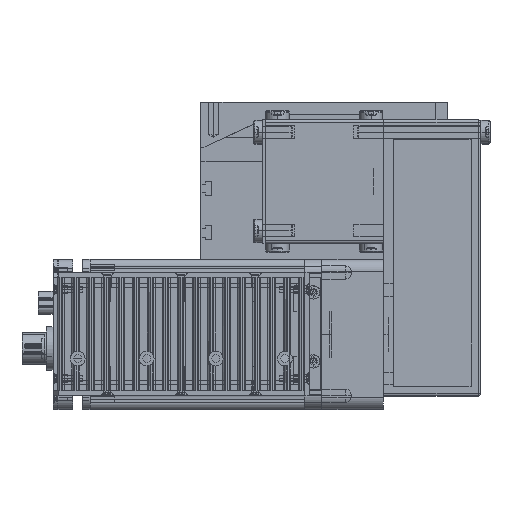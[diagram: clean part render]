
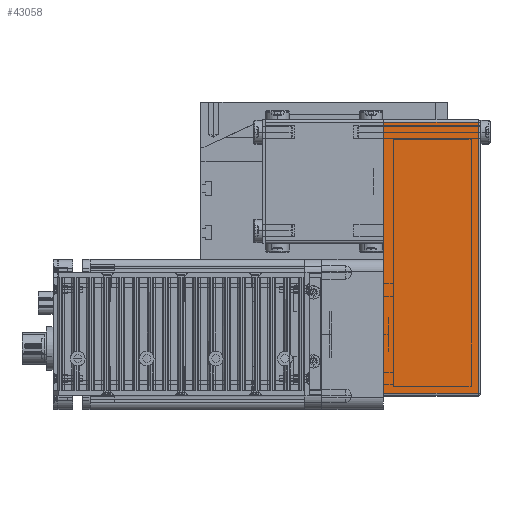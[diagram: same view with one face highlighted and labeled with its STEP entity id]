
A CAD part, top view. The second image highlights one B-rep face of the part: STEP entity #43058.
In plain terms, the highlighted planar face has unit normal (0, 0, 1) as drawn and (0, -1, 0) by its records, which use the part's own axes.
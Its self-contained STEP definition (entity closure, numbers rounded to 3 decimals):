
#26186 = CARTESIAN_POINT ( 'NONE',  ( 61., -25., 38.5 ) ) ;
#26277 = DIRECTION ( 'NONE',  ( 0., 0., 1. ) ) ;
#26278 = VECTOR ( 'NONE', #26277, 1000. ) ;
#26280 = CARTESIAN_POINT ( 'NONE',  ( -49., -25., 39.5 ) ) ;
#26284 = LINE ( 'NONE', #26280, #26278 ) ;
#26377 = CARTESIAN_POINT ( 'NONE',  ( -49., -25., 0. ) ) ;
#26572 = CARTESIAN_POINT ( 'NONE',  ( -49., -25., 38.5 ) ) ;
#26811 = CARTESIAN_POINT ( 'NONE',  ( 61., -25., 0. ) ) ;
#26941 = LINE ( 'NONE', #27030, #27029 ) ;
#27028 = DIRECTION ( 'NONE',  ( 0., 0., -1. ) ) ;
#27029 = VECTOR ( 'NONE', #27028, 1000. ) ;
#27030 = CARTESIAN_POINT ( 'NONE',  ( 61., -25., 39.5 ) ) ;
#29384 = LINE ( 'NONE', #29429, #29421 ) ;
#29421 = VECTOR ( 'NONE', #29427, 1000. ) ;
#29427 = DIRECTION ( 'NONE',  ( 1., 0., 0. ) ) ;
#29429 = CARTESIAN_POINT ( 'NONE',  ( -50., -25., 38.5 ) ) ;
#29431 = DIRECTION ( 'NONE',  ( 0., 0., 1. ) ) ;
#29433 = DIRECTION ( 'NONE',  ( 0., 1., 0. ) ) ;
#29455 = CARTESIAN_POINT ( 'NONE',  ( -50., -25., 39.5 ) ) ;
#29460 = AXIS2_PLACEMENT_3D ( 'NONE', #29455, #29433, #29431 ) ;
#29466 = FACE_OUTER_BOUND ( 'NONE', #42921, .T. ) ;
#29468 = PLANE ( 'NONE',  #29460 ) ;
#30005 = DIRECTION ( 'NONE',  ( 1., 0., 0. ) ) ;
#30006 = VECTOR ( 'NONE', #30005, 1000. ) ;
#30008 = CARTESIAN_POINT ( 'NONE',  ( -50., -25., 0. ) ) ;
#30009 = LINE ( 'NONE', #30008, #30006 ) ;
#33002 = VERTEX_POINT ( 'NONE', #26186 ) ;
#34147 = EDGE_CURVE ( 'NONE', #34738, #36022, #26284, .T. ) ;
#34738 = VERTEX_POINT ( 'NONE', #26377 ) ;
#36022 = VERTEX_POINT ( 'NONE', #26572 ) ;
#37591 = VERTEX_POINT ( 'NONE', #26811 ) ;
#38890 = EDGE_CURVE ( 'NONE', #33002, #37591, #26941, .T. ) ;
#42788 = ORIENTED_EDGE ( 'NONE', *, *, #38890, .F. ) ;
#42921 = EDGE_LOOP ( 'NONE', ( #43042, #43236, #42788, #43227 ) ) ;
#43042 = ORIENTED_EDGE ( 'NONE', *, *, #34147, .F. ) ;
#43058 = ADVANCED_FACE ( 'NONE', ( #29466 ), #29468, .F. ) ;
#43061 = EDGE_CURVE ( 'NONE', #36022, #33002, #29384, .T. ) ;
#43196 = EDGE_CURVE ( 'NONE', #34738, #37591, #30009, .T. ) ;
#43227 = ORIENTED_EDGE ( 'NONE', *, *, #43061, .F. ) ;
#43236 = ORIENTED_EDGE ( 'NONE', *, *, #43196, .T. ) ;
